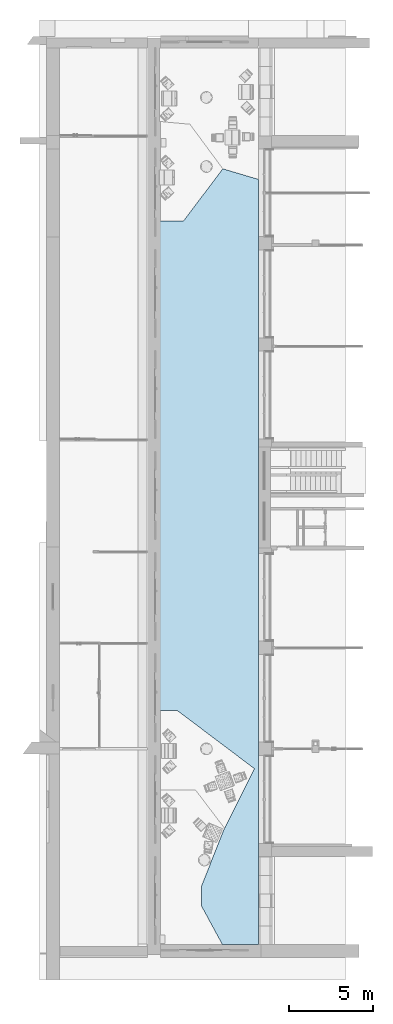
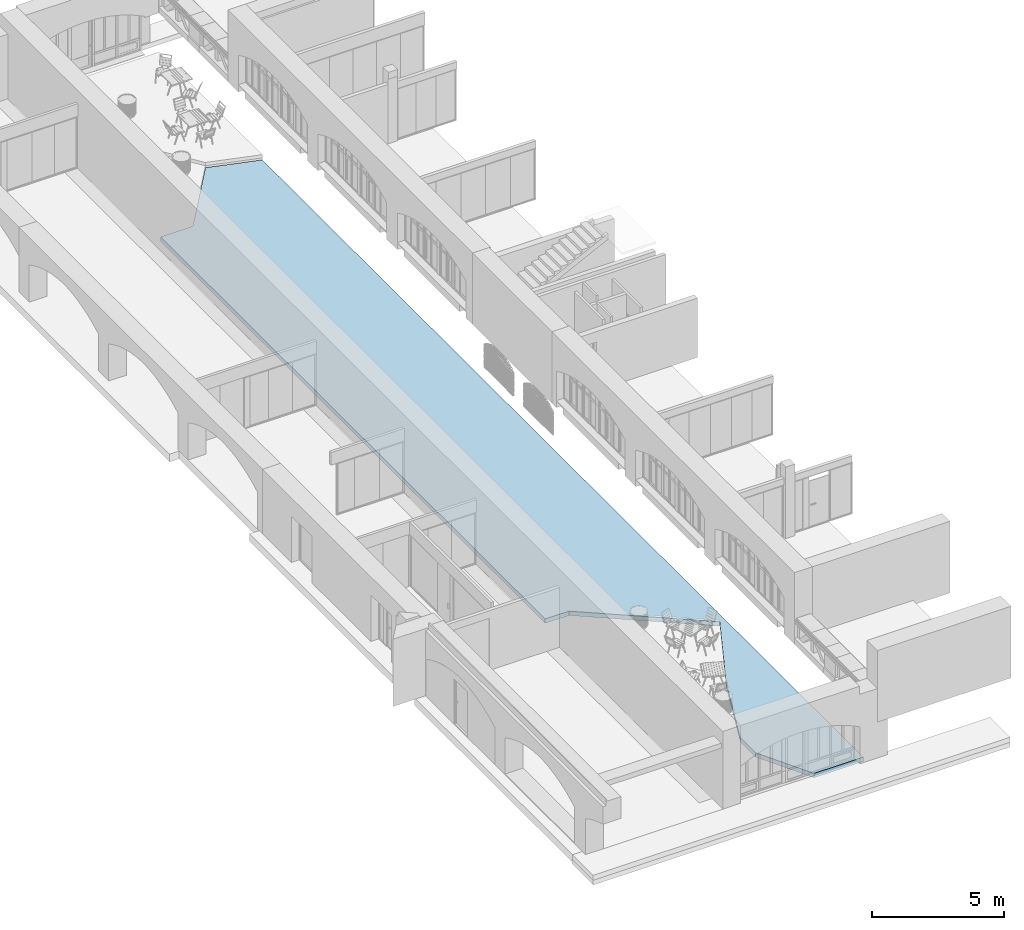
# One storey, part 58 of 88: 1 slab.
"""IFC2X3 building model written with IfcOpenShell, lengths in millimetres."""

from ifc_helpers import new_model, entity, si_unit, converted_unit, derived_unit, direction, frame, origin, place, context, subcontext, project, spatial, polyline, outline, extrude, material, layer, layer_set, layer_usage, type_object, element, save


model = new_model("IFC2X3")

# Units and contexts
model_context = context("Model", 3, precision=0.01, world=origin(), true_north=direction((6.123031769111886e-17, 1.0)))
body_context = subcontext(model_context, "Body", "Model", "MODEL_VIEW")
ifc_project = project(units=[si_unit("LENGTHUNIT", "METRE", prefix="MILLI"), si_unit("AREAUNIT", "SQUARE_METRE"), si_unit("VOLUMEUNIT", "CUBIC_METRE"), converted_unit("PLANEANGLEUNIT", "DEGREE", entity("IfcPlaneAngleMeasure", 0.017453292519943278), si_unit("PLANEANGLEUNIT", "RADIAN"), dimensions=[0, 0, 0, 0, 0, 0, 0]), si_unit("MASSUNIT", "GRAM", prefix="KILO"), derived_unit("MASSDENSITYUNIT", [(si_unit("MASSUNIT", "GRAM", prefix="KILO"), 1), (si_unit("LENGTHUNIT", "METRE"), -3)]), derived_unit("IONCONCENTRATIONUNIT", [(si_unit("MASSUNIT", "GRAM", prefix="KILO"), 1), (si_unit("LENGTHUNIT", "METRE"), -3)]), derived_unit("MOMENTOFINERTIAUNIT", [(si_unit("LENGTHUNIT", "METRE"), 4)]), si_unit("TIMEUNIT", "SECOND"), si_unit("FREQUENCYUNIT", "HERTZ"), si_unit("THERMODYNAMICTEMPERATUREUNIT", "DEGREE_CELSIUS"), derived_unit("THERMALTRANSMITTANCEUNIT", [(si_unit("MASSUNIT", "GRAM", prefix="KILO"), 1), (si_unit("THERMODYNAMICTEMPERATUREUNIT", "KELVIN"), -1), (si_unit("TIMEUNIT", "SECOND"), -3)]), derived_unit("THERMALCONDUCTANCEUNIT", [(si_unit("MASSUNIT", "GRAM", prefix="KILO"), 1), (si_unit("THERMODYNAMICTEMPERATUREUNIT", "KELVIN"), -1), (si_unit("TIMEUNIT", "SECOND"), -3), (si_unit("LENGTHUNIT", "METRE"), 1)]), derived_unit("VOLUMETRICFLOWRATEUNIT", [(si_unit("LENGTHUNIT", "METRE", prefix="DECI"), 3), (si_unit("TIMEUNIT", "SECOND"), -1)]), derived_unit("MASSFLOWRATEUNIT", [(si_unit("MASSUNIT", "GRAM", prefix="KILO"), 1), (si_unit("TIMEUNIT", "SECOND"), -1)]), derived_unit("ROTATIONALFREQUENCYUNIT", [(si_unit("TIMEUNIT", "SECOND"), -1)]), si_unit("ELECTRICCURRENTUNIT", "AMPERE"), si_unit("ELECTRICVOLTAGEUNIT", "VOLT"), si_unit("POWERUNIT", "WATT"), si_unit("FORCEUNIT", "NEWTON", prefix="KILO"), si_unit("ILLUMINANCEUNIT", "LUX"), si_unit("LUMINOUSFLUXUNIT", "LUMEN"), si_unit("LUMINOUSINTENSITYUNIT", "CANDELA"), si_unit("ENERGYUNIT", "JOULE"), derived_unit("USERDEFINED", [(si_unit("MASSUNIT", "GRAM", prefix="KILO"), -1), (si_unit("LENGTHUNIT", "METRE"), -2), (si_unit("TIMEUNIT", "SECOND"), 3), (si_unit("LUMINOUSFLUXUNIT", "LUMEN"), 1)]), derived_unit("USERDEFINED", [(si_unit("MASSUNIT", "GRAM", prefix="KILO"), 1), (si_unit("TIMEUNIT", "SECOND"), -3), (si_unit("LENGTHUNIT", "METRE"), 3), (si_unit("ELECTRICCURRENTUNIT", "AMPERE"), -2)]), derived_unit("SOUNDPOWERUNIT", [(si_unit("MASSUNIT", "GRAM", prefix="KILO"), 1), (si_unit("TIMEUNIT", "SECOND"), -3), (si_unit("LENGTHUNIT", "METRE"), 2)]), derived_unit("SOUNDPRESSUREUNIT", [(si_unit("MASSUNIT", "GRAM", prefix="KILO"), 1), (si_unit("LENGTHUNIT", "METRE"), -1), (si_unit("TIMEUNIT", "SECOND"), -2)]), derived_unit("LINEARVELOCITYUNIT", [(si_unit("LENGTHUNIT", "METRE"), 1), (si_unit("TIMEUNIT", "SECOND"), -1)]), si_unit("PRESSUREUNIT", "PASCAL"), derived_unit("USERDEFINED", [(si_unit("MASSUNIT", "GRAM", prefix="KILO"), 1), (si_unit("LENGTHUNIT", "METRE"), -2), (si_unit("TIMEUNIT", "SECOND"), -2)]), derived_unit("LINEARFORCEUNIT", [(si_unit("MASSUNIT", "GRAM", prefix="KILO"), 1), (si_unit("TIMEUNIT", "SECOND"), -2)]), derived_unit("PLANARFORCEUNIT", [(si_unit("MASSUNIT", "GRAM", prefix="KILO"), 1), (si_unit("LENGTHUNIT", "METRE"), -1), (si_unit("TIMEUNIT", "SECOND"), -2)]), derived_unit("SPECIFICHEATCAPACITYUNIT", [(si_unit("THERMODYNAMICTEMPERATUREUNIT", "KELVIN"), -1), (si_unit("LENGTHUNIT", "METRE"), 2), (si_unit("TIMEUNIT", "SECOND"), -2)]), derived_unit("HEATFLUXDENSITYUNIT", [(si_unit("MASSUNIT", "GRAM", prefix="KILO"), 1), (si_unit("TIMEUNIT", "SECOND"), -3)]), derived_unit("HEATINGVALUEUNIT", [(si_unit("LENGTHUNIT", "METRE"), 2), (si_unit("TIMEUNIT", "SECOND"), -2)]), derived_unit("VAPORPERMEABILITYUNIT", [(si_unit("LENGTHUNIT", "METRE"), -1), (si_unit("TIMEUNIT", "SECOND"), 1)]), derived_unit("DYNAMICVISCOSITYUNIT", [(si_unit("MASSUNIT", "GRAM", prefix="KILO"), 1), (si_unit("TIMEUNIT", "SECOND"), -1), (si_unit("LENGTHUNIT", "METRE"), -1)]), derived_unit("THERMALEXPANSIONCOEFFICIENTUNIT", [(si_unit("THERMODYNAMICTEMPERATUREUNIT", "KELVIN"), -1)]), derived_unit("MODULUSOFELASTICITYUNIT", [(si_unit("MASSUNIT", "GRAM", prefix="KILO"), 1), (si_unit("LENGTHUNIT", "METRE"), -1), (si_unit("TIMEUNIT", "SECOND"), -2)]), derived_unit("ISOTHERMALMOISTURECAPACITYUNIT", [(si_unit("MASSUNIT", "GRAM", prefix="KILO"), -1), (si_unit("LENGTHUNIT", "METRE"), 3)]), derived_unit("MOISTUREDIFFUSIVITYUNIT", [(si_unit("TIMEUNIT", "SECOND"), -1), (si_unit("LENGTHUNIT", "METRE"), 2)]), derived_unit("MASSPERLENGTHUNIT", [(si_unit("MASSUNIT", "GRAM", prefix="KILO"), 1), (si_unit("LENGTHUNIT", "METRE"), -1)]), derived_unit("THERMALRESISTANCEUNIT", [(si_unit("MASSUNIT", "GRAM", prefix="KILO"), -1), (si_unit("TIMEUNIT", "SECOND"), 3), (si_unit("THERMODYNAMICTEMPERATUREUNIT", "KELVIN"), 1)]), derived_unit("ACCELERATIONUNIT", [(si_unit("LENGTHUNIT", "METRE"), 1), (si_unit("TIMEUNIT", "SECOND"), -2)]), derived_unit("ANGULARVELOCITYUNIT", [(si_unit("TIMEUNIT", "SECOND"), -1), (si_unit("PLANEANGLEUNIT", "RADIAN"), 1)]), derived_unit("LINEARSTIFFNESSUNIT", [(si_unit("MASSUNIT", "GRAM", prefix="KILO"), 1), (si_unit("TIMEUNIT", "SECOND"), -2)]), derived_unit("WARPINGCONSTANTUNIT", [(si_unit("LENGTHUNIT", "METRE"), 6)]), derived_unit("LINEARMOMENTUNIT", [(si_unit("MASSUNIT", "GRAM", prefix="KILO"), 1), (si_unit("LENGTHUNIT", "METRE"), 1), (si_unit("TIMEUNIT", "SECOND"), -2)]), derived_unit("TORQUEUNIT", [(si_unit("MASSUNIT", "GRAM", prefix="KILO"), 1), (si_unit("LENGTHUNIT", "METRE"), 2), (si_unit("TIMEUNIT", "SECOND"), -2)])], contexts=[model_context])

# Site, building, storey
site_placement = place(None, origin())
site = spatial("IfcSite", under=ifc_project, at=site_placement, Name="Default", CompositionType="ELEMENT")
building_placement = place(site_placement, origin())
building = spatial("IfcBuilding", under=site, at=building_placement, Name="Eesti Rahvusraamatukogu hoone renoveerimise projekteerimistööd", CompositionType="ELEMENT")
storey_placement = place(building_placement, origin())
storey = spatial("IfcBuildingStorey", under=building, at=storey_placement, Name="1. korrus", CompositionType="ELEMENT", Elevation=0.0)

# Slab
ifc_material = material(Name="LUMION_grass")
ifc_layer = layer(ifc_material, 200.0)
ifc_layer_set = layer_set([ifc_layer], Name="Floor:muru")
ifc_layer_usage = layer_usage(ifc_layer_set, "AXIS3", "POSITIVE", 0.0)
slab_type = type_object("IfcSlabType", Name="Floor:muru", PredefinedType="FLOOR", material=ifc_layer_set)
slab_placement = place(storey_placement, origin())
element("IfcSlab", 1, at=slab_placement, inside=storey, type_object=slab_type, material=ifc_layer_usage, Name="Floor:muru", ObjectType="Floor:muru", PredefinedType="FLOOR", context=body_context, shape_type="SweptSolid", body=[
    extrude(outline(polyline([(-5112.391293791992, -3000.408035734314), (23923.370248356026, -3000.408035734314), (23923.370248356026, -1591.1413207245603), (27022.278982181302, 744.0539065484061), (26392.949614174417, 2859.591964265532), (-18998.027428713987, 2859.5919642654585), (-18998.02742871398, 710.603106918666), (-16718.21561997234, -523.8011813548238), (-15554.817148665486, -523.8011813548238), (-12182.860672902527, 808.9821114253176), (-8571.686548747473, 2614.696449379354), (-5125.9429515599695, -1957.9597478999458), (-5112.391293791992, -3000.408035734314)])), frame((-39639.591964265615, 19794.027428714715, -389.9999999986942), z_axis=(0.0, 0.0, -1.0), x_axis=(0.0, 1.0, 0.0)), (0.0, 0.0, 1.0), 200.0),
])

save(model, "model.ifc")
